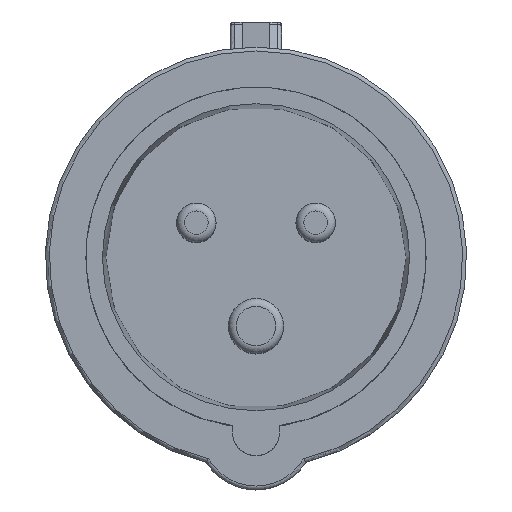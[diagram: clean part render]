
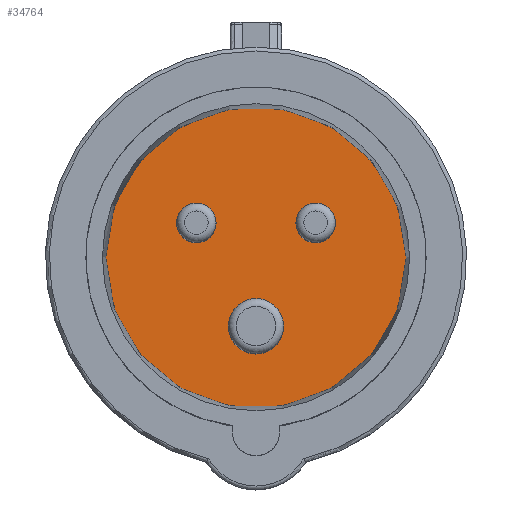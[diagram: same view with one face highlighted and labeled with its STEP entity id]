
A CAD part, top view. The second image highlights one B-rep face of the part: STEP entity #34764.
In plain terms, the highlighted planar face has unit normal (0, 0, 1).
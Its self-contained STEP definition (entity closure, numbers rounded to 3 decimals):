
#30338 = VERTEX_POINT('',#30339);
#30339 = CARTESIAN_POINT('',(-19.073,0.,5.3));
#30345 = EDGE_CURVE('',#30346,#30338,#30348,.T.);
#30346 = VERTEX_POINT('',#30347);
#30347 = CARTESIAN_POINT('',(19.073,0.,5.3));
#30348 = CIRCLE('',#30349,19.073);
#30349 = AXIS2_PLACEMENT_3D('',#30350,#30351,#30352);
#30350 = CARTESIAN_POINT('',(0.,0.,5.3));
#30351 = DIRECTION('',(0.,0.,-1.));
#30352 = DIRECTION('',(1.,0.,0.));
#30376 = EDGE_CURVE('',#30338,#30346,#30377,.T.);
#30377 = CIRCLE('',#30378,19.073);
#30378 = AXIS2_PLACEMENT_3D('',#30379,#30380,#30381);
#30379 = CARTESIAN_POINT('',(0.,0.,5.3));
#30380 = DIRECTION('',(0.,0.,-1.));
#30381 = DIRECTION('',(1.,0.,0.));
#34764 = ADVANCED_FACE('',(#34765),#34769,.T.);
#34765 = FACE_BOUND('',#34766,.T.);
#34766 = EDGE_LOOP('',(#34767,#34768));
#34767 = ORIENTED_EDGE('',*,*,#30345,.F.);
#34768 = ORIENTED_EDGE('',*,*,#30376,.F.);
#34769 = PLANE('',#34770);
#34770 = AXIS2_PLACEMENT_3D('',#34771,#34772,#34773);
#34771 = CARTESIAN_POINT('',(0.,0.,5.3));
#34772 = DIRECTION('',(0.,0.,1.));
#34773 = DIRECTION('',(1.,0.,-0.));
